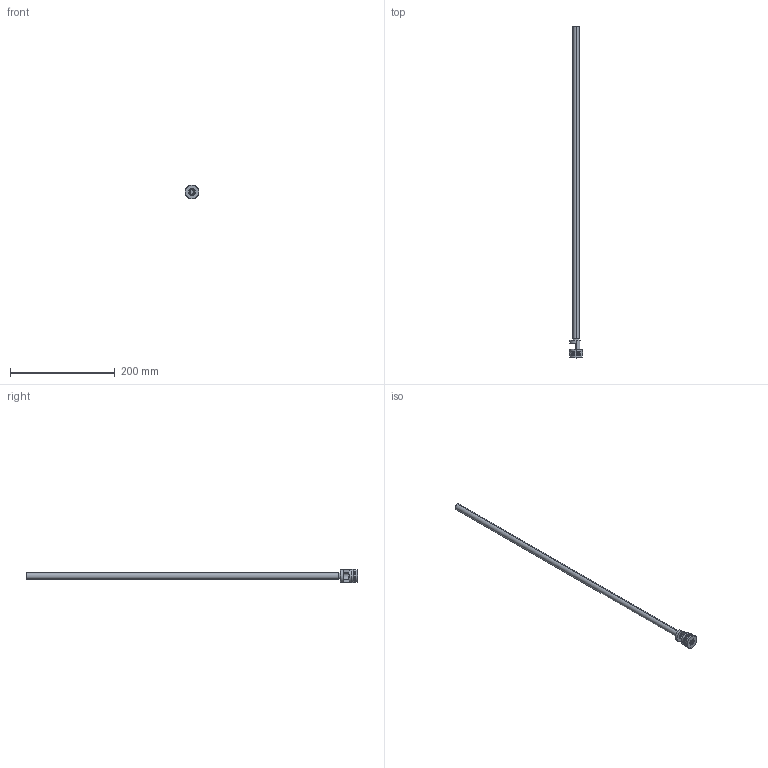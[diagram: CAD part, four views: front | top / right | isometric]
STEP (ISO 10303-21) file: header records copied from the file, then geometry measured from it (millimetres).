
FILE_DESCRIPTION (( 'STEP AP203' ), '1' );
FILE_NAME ('RF-25Fx600.STEP', '2015-11-24T14:04:15', ( 'Balzi' ), ( '' ), 'SwSTEP 2.0', 'SolidWorks 2015', '' );
FILE_SCHEMA (( 'CONFIG_CONTROL_DESIGN' ));
Length unit declared in the file: millimetre
Products named in the file (1): RF-25Fx600
Bounding box: 26.5 x 633.5 x 26.5 mm (x, y, z)
Volume: 20928.3 mm3; surface area: 48198.7 mm2
Topology: 1 solids, 1 shells, 74 faces, 170 edges, 106 vertices
Faces by surface type: plane 27, cylinder 25, cone 14, torus 8
Entity records: 2194 total; most frequent: DIRECTION 401, CARTESIAN_POINT 370, ORIENTED_EDGE 340, EDGE_CURVE 170, AXIS2_PLACEMENT_3D 161, VERTEX_POINT 106, CIRCLE 86, EDGE_LOOP 84
